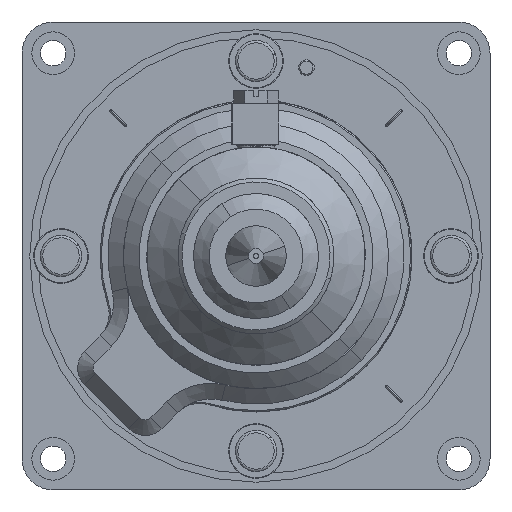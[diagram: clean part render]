
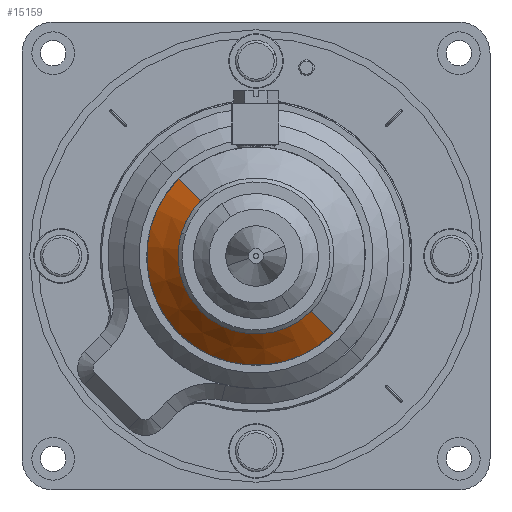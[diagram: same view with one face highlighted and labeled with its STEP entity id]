
A CAD part, front view. The second image highlights one B-rep face of the part: STEP entity #15159.
In plain terms, the highlighted conical face has half-angle 45 degrees and reference radius 15.875 mm.
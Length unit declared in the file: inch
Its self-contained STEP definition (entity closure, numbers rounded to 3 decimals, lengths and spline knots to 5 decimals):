
#255 = DIRECTION ( 'NONE',  ( -0.5, 0.707, 0.5 ) ) ;
#1812 = CARTESIAN_POINT ( 'NONE',  ( -0.44194, -5.35127, 0.44194 ) ) ;
#2120 = DIRECTION ( 'NONE',  ( 0., -1., 0. ) ) ;
#2158 = EDGE_CURVE ( 'Defeatured_0_52+Defeatured_0_54+Defeatured_0_54+Defeatured_0_54', #5563, #20208, #2682, .T. ) ;
#2280 = LINE ( 'NONE', #13886, #15736 ) ;
#2682 = CIRCLE ( 'NONE', #5478, 0.625 ) ;
#2768 = CARTESIAN_POINT ( 'NONE',  ( 0., -5.35127, 0. ) ) ;
#5478 = AXIS2_PLACEMENT_3D ( 'NONE', #10400, #2120, #15493 ) ;
#5563 = VERTEX_POINT ( 'NONE', #1812 ) ;
#5606 = CARTESIAN_POINT ( 'NONE',  ( -0.61872, -5.10127, 0.61872 ) ) ;
#5833 = ORIENTED_EDGE ( 'NONE', *, *, #6074, .T. ) ;
#6074 = EDGE_CURVE ( 'Defeatured_0_54+Defeatured_0_53+Defeatured_0_53+Defeatured_0_53', #15750, #21046, #11991, .T. ) ;
#6534 = CARTESIAN_POINT ( 'NONE',  ( 0., -5.10127, 0. ) ) ;
#9560 = ORIENTED_EDGE ( 'NONE', *, *, #13909, .T. ) ;
#9634 = DIRECTION ( 'NONE',  ( -0.707, 0., 0.707 ) ) ;
#10381 = FACE_OUTER_BOUND ( 'NONE', #13317, .T. ) ;
#10400 = CARTESIAN_POINT ( 'NONE',  ( 0., -5.35127, 0. ) ) ;
#11167 = CARTESIAN_POINT ( 'NONE',  ( 0.61872, -5.10127, -0.61872 ) ) ;
#11960 = LINE ( 'NONE', #14933, #20523 ) ;
#11991 = CIRCLE ( 'NONE', #17728, 0.875 ) ;
#12872 = DIRECTION ( 'NONE',  ( 0., 1., 0. ) ) ;
#13317 = EDGE_LOOP ( 'NONE', ( #15622, #9560, #5833, #21065 ) ) ;
#13886 = CARTESIAN_POINT ( 'NONE',  ( 0.44194, -5.35127, -0.44194 ) ) ;
#13909 = EDGE_CURVE ( 'NONE', #5563, #15750, #11960, .T. ) ;
#13983 = CONICAL_SURFACE ( 'NONE', #17822, 0.625, 0.785 ) ;
#14933 = CARTESIAN_POINT ( 'NONE',  ( -0.44194, -5.35127, 0.44194 ) ) ;
#15159 = ADVANCED_FACE ( 'Defeatured_0_54', ( #10381 ), #13983, .T. ) ;
#15493 = DIRECTION ( 'NONE',  ( -0.707, 0., 0.707 ) ) ;
#15622 = ORIENTED_EDGE ( 'NONE', *, *, #2158, .F. ) ;
#15736 = VECTOR ( 'NONE', #17038, 39.37008 ) ;
#15750 = VERTEX_POINT ( 'NONE', #5606 ) ;
#17038 = DIRECTION ( 'NONE',  ( 0.5, 0.707, -0.5 ) ) ;
#17462 = EDGE_CURVE ( 'NONE', #20208, #21046, #2280, .T. ) ;
#17728 = AXIS2_PLACEMENT_3D ( 'NONE', #6534, #19566, #9634 ) ;
#17822 = AXIS2_PLACEMENT_3D ( 'NONE', #2768, #12872, #21054 ) ;
#19566 = DIRECTION ( 'NONE',  ( 0., -1., 0. ) ) ;
#19591 = CARTESIAN_POINT ( 'NONE',  ( 0.44194, -5.35127, -0.44194 ) ) ;
#20208 = VERTEX_POINT ( 'NONE', #19591 ) ;
#20523 = VECTOR ( 'NONE', #255, 39.37008 ) ;
#21046 = VERTEX_POINT ( 'NONE', #11167 ) ;
#21054 = DIRECTION ( 'NONE',  ( 0.707, 0., -0.707 ) ) ;
#21065 = ORIENTED_EDGE ( 'NONE', *, *, #17462, .F. ) ;
